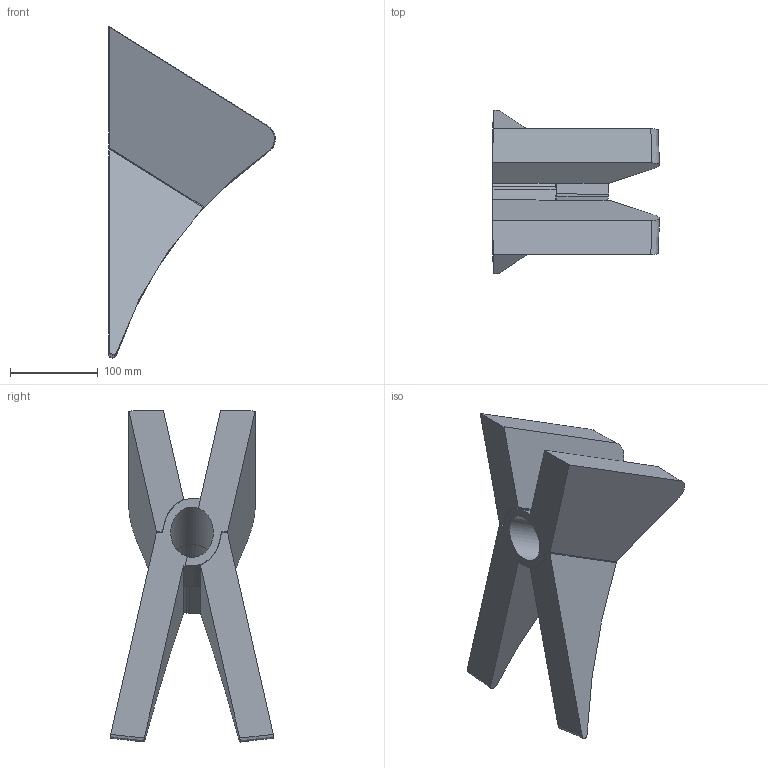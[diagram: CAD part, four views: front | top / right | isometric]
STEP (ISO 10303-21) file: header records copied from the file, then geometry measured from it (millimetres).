
FILE_DESCRIPTION(('STEP AP214'),'1');
FILE_NAME('CUNEO APERTO.stp','2019-09-17T09:49:47',(' '),(' '),'Spatial InterOp 3D',' ',' ');
FILE_SCHEMA(('AUTOMOTIVE_DESIGN { 1 0 10303 214 1 1 1 1 }'));
Length unit declared in the file: metre
Products named in the file (2): 1568704256; 1568713885
Bounding box: 189.99 x 186.37 x 378.08 mm (x, y, z)
Volume: 2448481.1 mm3; surface area: 242306.8 mm2
Topology: 2 solids, 2 shells, 66 faces, 187 edges, 123 vertices
Faces by surface type: plane 40, bspline 12, cylinder 12, cone 2
Full cylindrical faces by diameter (mm): 48.516 x1, 49 x1, 57 x1
Entity records: 9852 total; most frequent: CARTESIAN_POINT 7750, ORIENTED_EDGE 360, DIRECTION 251, EDGE_CURVE 180, VERTEX_POINT 120, LINE 97, VECTOR 97, AXIS2_PLACEMENT_3D 77
